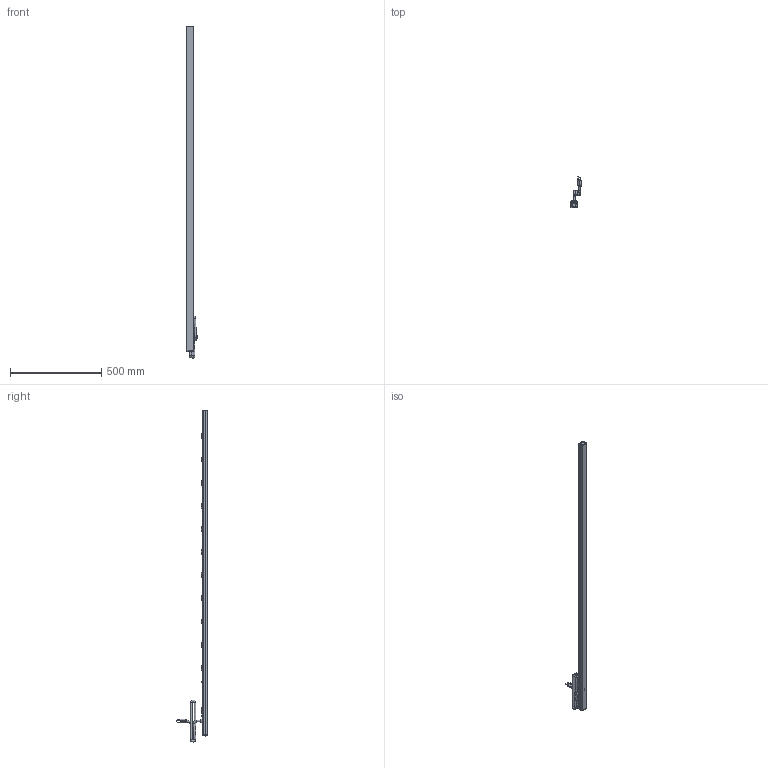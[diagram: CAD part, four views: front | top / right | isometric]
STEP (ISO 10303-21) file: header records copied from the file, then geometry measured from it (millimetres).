
FILE_DESCRIPTION(/* description */ (''),/* implementation_level */ '2;1');
FILE_NAME(/* name */ 'E:\Manufacturing\drawings\Web Drawings\POWER BARS\Surge Protection\1585, 87, 88 ''S'' series\STEP''s\1587H11A1S.stp',/* time_stamp */ '2019-01-14T12:57:51-05:00',/* author */ ('tfoster'),/* organization */ (''),/* preprocessor_version */ 'ST-DEVELOPER v17',/* originating_system */ 'Autodesk Inventor 2019',/* authorisation */ '');
FILE_SCHEMA (('AUTOMOTIVE_DESIGN { 1 0 10303 214 3 1 1 }'));
Length unit declared in the file: inch
Products named in the file (14): 1587H11A1; 1587H11 top; 1585 bottom; End Cap; End Cap w breaker; Reset Switch; #29702; Cored 2; Power Switch Assembly; Power Switch; Power Switch pt; tamper proof screw; Surge Light; Receptacle
Assembly tree (26 placements, depth 3):
  1587H11A1
    1587H11 top
    1585 bottom
    End Cap
    End Cap w breaker
    Reset Switch
    #29702  x4
    Cored 2
    Power Switch Assembly
      Power Switch
      Power Switch pt
    tamper proof screw
    Surge Light
    Receptacle  x11
Bounding box: 60.19 x 170.82 x 1821.59 mm (x, y, z)
Volume: 655141.1 mm3; surface area: 665673.1 mm2
Topology: 25 solids, 25 shells, 1347 faces, 3604 edges, 2298 vertices
Faces by surface type: plane 759, cylinder 368, bspline 125, sphere 51, cone 30, torus 14
Full cylindrical faces by diameter (mm): 1 x1, 1.803 x3, 1.905 x2, 2.13 x20, 3 x2, 3.175 x12, 3.505 x12, 4.775 x1, 4.826 x1, 6.858 x1, 7.747 x1, 8 x1, 9.5 x5, 9.652 x1, 11 x1, 15.621 x1, 19.05 x2
Entity records: 29510 total; most frequent: CARTESIAN_POINT 11271, ORIENTED_EDGE 3898, DIRECTION 3317, EDGE_CURVE 1949, VERTEX_POINT 1290, LINE 1177, VECTOR 1177, AXIS2_PLACEMENT_3D 1070
